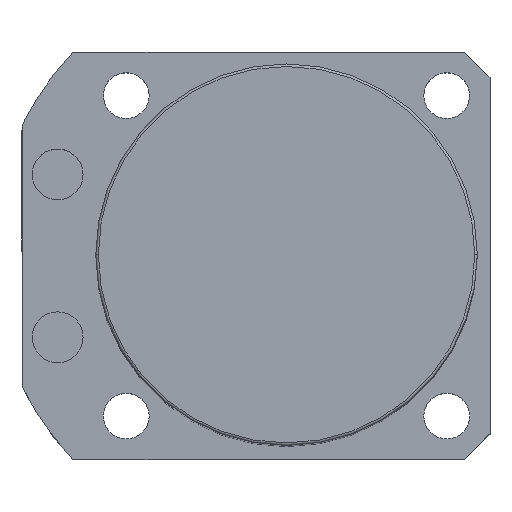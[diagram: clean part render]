
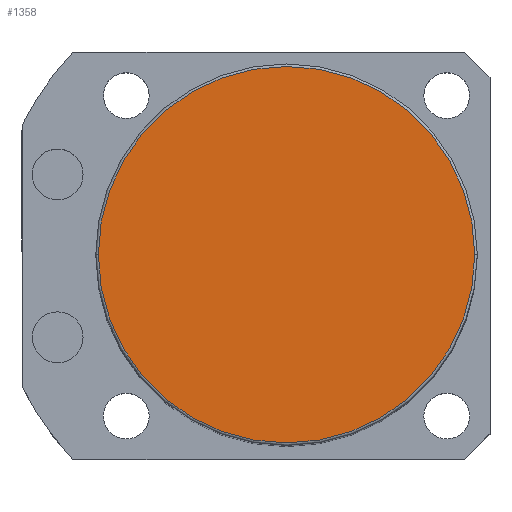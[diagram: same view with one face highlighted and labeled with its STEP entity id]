
A CAD part, top view. The second image highlights one B-rep face of the part: STEP entity #1358.
In plain terms, the highlighted planar face has unit normal (0, 0, 1).
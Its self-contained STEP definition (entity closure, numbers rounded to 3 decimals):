
#7 = AXIS2_PLACEMENT_3D ( 'NONE', #10, #1696, #1121 ) ;
#10 = CARTESIAN_POINT ( 'NONE',  ( 0., 0., 150.5 ) ) ;
#33 = AXIS2_PLACEMENT_3D ( 'NONE', #1502, #349, #2058 ) ;
#36 = VERTEX_POINT ( 'NONE', #2125 ) ;
#165 = PLANE ( 'NONE',  #33 ) ;
#338 = CARTESIAN_POINT ( 'NONE',  ( -37., 0., 150.5 ) ) ;
#349 = DIRECTION ( 'NONE',  ( 0., 0., 1. ) ) ;
#493 = EDGE_LOOP ( 'NONE', ( #1581, #763 ) ) ;
#586 = CIRCLE ( 'NONE', #2015, 37. ) ;
#702 = VERTEX_POINT ( 'NONE', #338 ) ;
#727 = EDGE_CURVE ( 'NONE', #36, #702, #586, .T. ) ;
#763 = ORIENTED_EDGE ( 'NONE', *, *, #2364, .T. ) ;
#808 = CIRCLE ( 'NONE', #7, 37. ) ;
#936 = FACE_OUTER_BOUND ( 'NONE', #493, .T. ) ;
#1068 = DIRECTION ( 'NONE',  ( 1., 0., 0. ) ) ;
#1121 = DIRECTION ( 'NONE',  ( 1., 0., 0. ) ) ;
#1358 = ADVANCED_FACE ( 'NONE', ( #936 ), #165, .T. ) ;
#1502 = CARTESIAN_POINT ( 'NONE',  ( 0., 0., 150.5 ) ) ;
#1581 = ORIENTED_EDGE ( 'NONE', *, *, #727, .T. ) ;
#1696 = DIRECTION ( 'NONE',  ( 0., 0., 1. ) ) ;
#2015 = AXIS2_PLACEMENT_3D ( 'NONE', #2218, #2216, #1068 ) ;
#2058 = DIRECTION ( 'NONE',  ( 1., 0., 0. ) ) ;
#2125 = CARTESIAN_POINT ( 'NONE',  ( 37., 0., 150.5 ) ) ;
#2216 = DIRECTION ( 'NONE',  ( 0., 0., 1. ) ) ;
#2218 = CARTESIAN_POINT ( 'NONE',  ( 0., 0., 150.5 ) ) ;
#2364 = EDGE_CURVE ( 'NONE', #702, #36, #808, .T. ) ;
